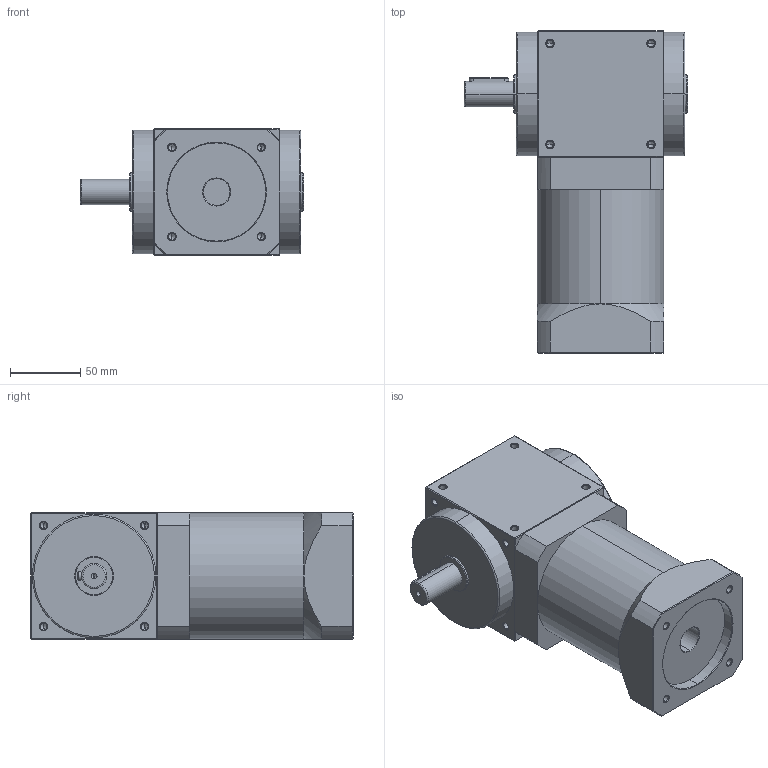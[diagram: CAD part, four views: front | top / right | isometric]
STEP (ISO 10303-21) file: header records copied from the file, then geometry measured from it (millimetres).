
FILE_DESCRIPTION (( 'STEP AP214' ), '1' );
FILE_NAME ('AT090-FL1-L2-19-70-90-m6.STEP', '2020-04-16T08:49:52', ( 'User' ), ( 'Far123' ), 'SwSTEP 2.0', 'SolidWorks 2015', '' );
FILE_SCHEMA (( 'AUTOMOTIVE_DESIGN' ));
Length unit declared in the file: millimetre
Products named in the file (1): AT090-FL1-L2-19-70-90-m6
Bounding box: 159 x 229.5 x 90 mm (x, y, z)
Volume: 1846096.4 mm3; surface area: 112086.4 mm2
Topology: 1 solids, 1 shells, 300 faces, 734 edges, 395 vertices
Faces by surface type: cone 116, cylinder 116, plane 62, torus 6
Entity records: 9482 total; most frequent: CARTESIAN_POINT 1922, DIRECTION 1392, ORIENTED_EDGE 1368, EDGE_CURVE 684, AXIS2_PLACEMENT_3D 537, VERTEX_POINT 395, EDGE_LOOP 333, LINE 318
